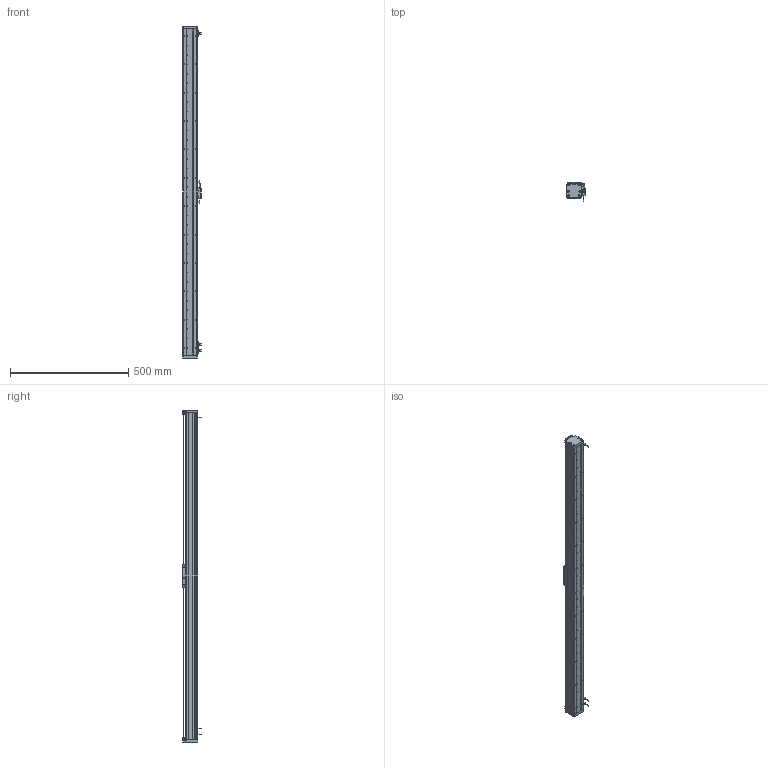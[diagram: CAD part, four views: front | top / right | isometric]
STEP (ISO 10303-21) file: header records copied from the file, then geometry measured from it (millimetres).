
FILE_DESCRIPTION (( 'STEP AP203' ), '1' );
FILE_NAME ('DA-A60-B1-T1240-C010-0.2 眻盄萇儂.STEP', '2025-08-13T02:09:35', ( '' ), ( '' ), 'SwSTEP 2.0', 'SolidWorks 2019', '' );
FILE_SCHEMA (( 'CONFIG_CONTROL_DESIGN' ));
Length unit declared in the file: millimetre
Products named in the file (24): IU-AU60-L-00 菁釱(1380); 复件 DA-A60-GYP-DMT-00 光电感应片^DA-A60-B1-T-C010-0.2-N 直线电机(默认); 复件 六角薄螺母 M3^DA-A60-B1-T-C010-0.2-N 直线电机(GB_FASTENER_NUT_STNAB M3-C); 葩璃 DMT-010 1米m 0.2M^DA-A60-B1-T-C010-0.2-N 眻盄萇儂; DA-A60-GD-1020-00 钢带盖板(默认); 复件 纯铜油杯 6x6mm^AU60-V 滚珠滑台; 复件 DA60-B1-GT-00 滑块钢轨^DA60-YT-B1-HT-B-01 一体化滑动台板; 葩璃 DA60-HK-DP-01 結え^AU60-V 幗紩賑怢; 13679-0000-005-00 詩湍嶺輸; 13679-0000-006-00  钢带压块(默认); AU60-L 菁釱絳寢; 复件 XD-U-02  磁栅尺^DA-A60-B1-T-C010-0.2-N 直线电机; 复件 DA60-GT-T-00 底座钢轨^AU60-L 底座导轨; DA-A60-B1-T1240-C010-0.2 眻盄萇儂; 葩璃 AKM01-W030-TRL^DA-A60-B1-T-C010-0.2-N 眻盄萇儂; 葩璃 PM-T45^DA-A60-B1-T-C010-0.2-N 眻盄萇儂; AU60-V 幗紩賑怢; 复件 BAKM01-W030-C1-TP-0.2 直线电机动子^DA-A60-B1-T-C010-0.2-N 直线电机; DA60-YT-B1-HT-B-01 珨极趙賑雄怢啣; 13679-0000-004-00 傷啣; DA60-XJ-00 砎蝶結輸; DA60嶺詩湍郪璃-T1060; DA60-B1-HT-B-03 賑雄怢啣; 复件 DA60-DMT-DTJ-00 读数头支架^DA-A60-B1-T-C010-0.2-N 直线电机
Assembly tree (38 placements, depth 4):
  DA-A60-B1-T1240-C010-0.2 眻盄萇儂
    AU60-L 菁釱絳寢
      IU-AU60-L-00 菁釱(1380)
      复件 DA60-GT-T-00 底座钢轨^AU60-L 底座导轨  x2
    AU60-V 幗紩賑怢
      DA60-YT-B1-HT-B-01 珨极趙賑雄怢啣
        DA60-B1-HT-B-03 賑雄怢啣
        复件 DA60-B1-GT-00 滑块钢轨^DA60-YT-B1-HT-B-01 一体化滑动台板  x2
      葩璃 DA60-HK-DP-01 結え^AU60-V 幗紩賑怢  x2
      复件 纯铜油杯 6x6mm^AU60-V 滚珠滑台
    DA60嶺詩湍郪璃-T1060
      13679-0000-006-00  钢带压块(默认)  x2
      DA-A60-GD-1020-00 钢带盖板(默认)
      13679-0000-004-00 傷啣  x2
      DA60-XJ-00 砎蝶結輸  x2
      13679-0000-005-00 詩湍嶺輸  x2
    复件 DA-A60-GYP-DMT-00 光电感应片^DA-A60-B1-T-C010-0.2-N 直线电机(默认)  x2
    复件 DA60-DMT-DTJ-00 读数头支架^DA-A60-B1-T-C010-0.2-N 直线电机
    葩璃 DMT-010 1米m 0.2M^DA-A60-B1-T-C010-0.2-N 眻盄萇儂
    复件 BAKM01-W030-C1-TP-0.2 直线电机动子^DA-A60-B1-T-C010-0.2-N 直线电机
    葩璃 AKM01-W030-TRL^DA-A60-B1-T-C010-0.2-N 眻盄萇儂
    葩璃 PM-T45^DA-A60-B1-T-C010-0.2-N 眻盄萇儂  x3
    复件 XD-U-02  磁栅尺^DA-A60-B1-T-C010-0.2-N 直线电机
    复件 六角薄螺母 M3^DA-A60-B1-T-C010-0.2-N 直线电机(GB_FASTENER_NUT_STNAB M3-C)  x6
Bounding box: 76.95 x 80 x 1404 mm (x, y, z)
Volume: 2718909.6 mm3; surface area: 980108.8 mm2
Topology: 39 solids, 41 shells, 2299 faces, 6446 edges, 4123 vertices
Faces by surface type: plane 1051, cylinder 1050, cone 186, bspline 7, torus 4, sphere 1
Entity records: 67772 total; most frequent: CARTESIAN_POINT 16120, ORIENTED_EDGE 10440, DIRECTION 9938, EDGE_CURVE 5220, AXIS2_PLACEMENT_3D 3504, VERTEX_POINT 3401, LINE 2930, VECTOR 2930
